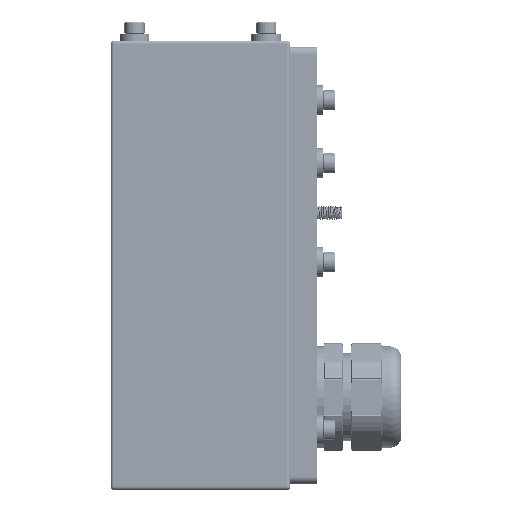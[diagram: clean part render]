
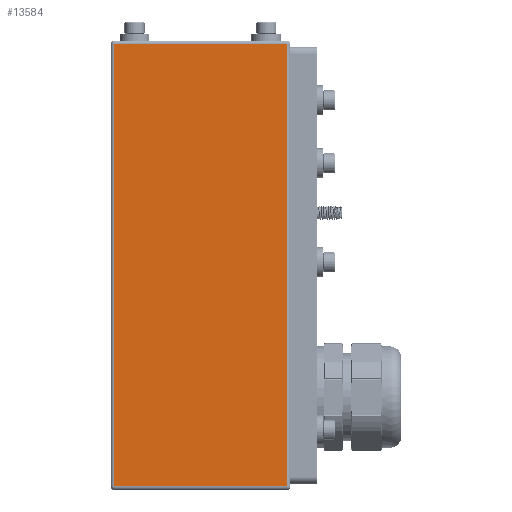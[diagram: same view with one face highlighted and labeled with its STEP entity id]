
A CAD part, left-side view. The second image highlights one B-rep face of the part: STEP entity #13584.
In plain terms, the highlighted planar face has unit normal (-1, 0, 0).
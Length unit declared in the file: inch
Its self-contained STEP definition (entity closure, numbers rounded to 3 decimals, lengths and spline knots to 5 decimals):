
#640 = DIRECTION ( 'NONE',  ( 0., 0., -1. ) ) ;
#822 = LINE ( 'NONE', #41051, #7006 ) ;
#1147 = PLANE ( 'NONE',  #3131 ) ;
#1477 = VERTEX_POINT ( 'NONE', #3532 ) ;
#3131 = AXIS2_PLACEMENT_3D ( 'NONE', #34531, #17962, #41375 ) ;
#3532 = CARTESIAN_POINT ( 'NONE',  ( -1.5, 0.06, -7.44 ) ) ;
#3886 = EDGE_CURVE ( 'NONE', #1477, #12568, #40539, .T. ) ;
#5614 = CARTESIAN_POINT ( 'NONE',  ( -1.5, 0.06, -0.06 ) ) ;
#7006 = VECTOR ( 'NONE', #37128, 39.37008 ) ;
#8743 = EDGE_CURVE ( 'NONE', #12568, #37016, #822, .T. ) ;
#11151 = ORIENTED_EDGE ( 'NONE', *, *, #14076, .T. ) ;
#12568 = VERTEX_POINT ( 'NONE', #5614 ) ;
#13432 = ORIENTED_EDGE ( 'NONE', *, *, #20253, .T. ) ;
#13584 = ADVANCED_FACE ( 'NONE', ( #38506 ), #1147, .F. ) ;
#14076 = EDGE_CURVE ( 'NONE', #25973, #1477, #21677, .T. ) ;
#14551 = ORIENTED_EDGE ( 'NONE', *, *, #8743, .T. ) ;
#17962 = DIRECTION ( 'NONE',  ( 1., 0., 0. ) ) ;
#20253 = EDGE_CURVE ( 'NONE', #37016, #25973, #30952, .T. ) ;
#21677 = LINE ( 'NONE', #24988, #30671 ) ;
#24319 = CARTESIAN_POINT ( 'NONE',  ( -1.5, 2.94, -7.5 ) ) ;
#24988 = CARTESIAN_POINT ( 'NONE',  ( -1.5, 3., -7.44 ) ) ;
#25635 = DIRECTION ( 'NONE',  ( 0., -1., 0. ) ) ;
#25973 = VERTEX_POINT ( 'NONE', #42577 ) ;
#29730 = VECTOR ( 'NONE', #640, 39.37008 ) ;
#30671 = VECTOR ( 'NONE', #25635, 39.37008 ) ;
#30952 = LINE ( 'NONE', #24319, #29730 ) ;
#33921 = CARTESIAN_POINT ( 'NONE',  ( -1.5, 0.06, -7.5 ) ) ;
#34531 = CARTESIAN_POINT ( 'NONE',  ( -1.5, 3., -7.5 ) ) ;
#34866 = EDGE_LOOP ( 'NONE', ( #13432, #11151, #37564, #14551 ) ) ;
#37016 = VERTEX_POINT ( 'NONE', #37069 ) ;
#37069 = CARTESIAN_POINT ( 'NONE',  ( -1.5, 2.94, -0.06 ) ) ;
#37128 = DIRECTION ( 'NONE',  ( 0., 1., 0. ) ) ;
#37564 = ORIENTED_EDGE ( 'NONE', *, *, #3886, .T. ) ;
#38506 = FACE_OUTER_BOUND ( 'NONE', #34866, .T. ) ;
#38922 = VECTOR ( 'NONE', #42021, 39.37008 ) ;
#40539 = LINE ( 'NONE', #33921, #38922 ) ;
#41051 = CARTESIAN_POINT ( 'NONE',  ( -1.5, 3., -0.06 ) ) ;
#41375 = DIRECTION ( 'NONE',  ( 0., 0., -1. ) ) ;
#42021 = DIRECTION ( 'NONE',  ( 0., 0., 1. ) ) ;
#42577 = CARTESIAN_POINT ( 'NONE',  ( -1.5, 2.94, -7.44 ) ) ;
